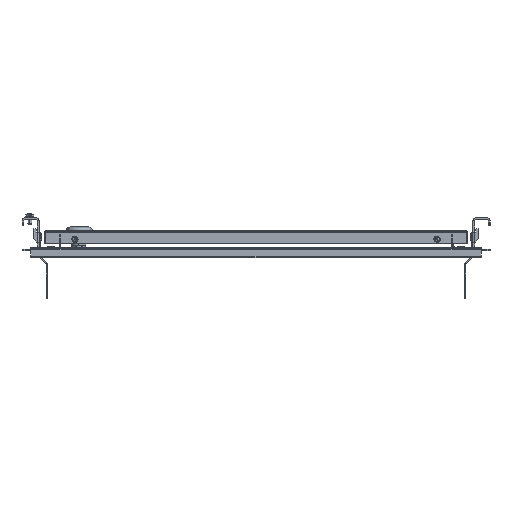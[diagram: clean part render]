
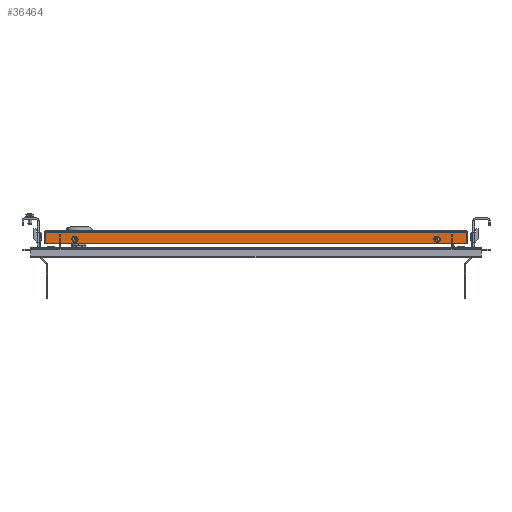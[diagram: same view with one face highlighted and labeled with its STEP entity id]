
A CAD part, front view. The second image highlights one B-rep face of the part: STEP entity #36464.
In plain terms, the highlighted planar face has unit normal (0, -1, 0).
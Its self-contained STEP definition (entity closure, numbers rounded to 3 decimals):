
#257 = DIRECTION ( 'NONE',  ( 0., 0., -1. ) ) ;
#627 = DIRECTION ( 'NONE',  ( 0., 1., 0. ) ) ;
#799 = VERTEX_POINT ( 'NONE', #51265 ) ;
#1366 = VERTEX_POINT ( 'NONE', #47475 ) ;
#1763 = VERTEX_POINT ( 'NONE', #37355 ) ;
#2833 = CARTESIAN_POINT ( 'NONE',  ( 268.64, -574., 2.35 ) ) ;
#5793 = DIRECTION ( 'NONE',  ( 0., 0., 1. ) ) ;
#5878 = CARTESIAN_POINT ( 'NONE',  ( 0., -574., 2.35 ) ) ;
#7206 = DIRECTION ( 'NONE',  ( 0., 1., 0. ) ) ;
#7389 = CIRCLE ( 'NONE', #14703, 2.75 ) ;
#7439 = CIRCLE ( 'NONE', #29486, 2.75 ) ;
#7635 = EDGE_CURVE ( 'NONE', #30516, #47221, #7439, .T. ) ;
#8141 = VERTEX_POINT ( 'NONE', #2833 ) ;
#8250 = FACE_BOUND ( 'NONE', #25605, .T. ) ;
#8810 = ORIENTED_EDGE ( 'NONE', *, *, #13778, .T. ) ;
#9005 = ORIENTED_EDGE ( 'NONE', *, *, #48342, .F. ) ;
#12265 = CARTESIAN_POINT ( 'NONE',  ( 268.64, -574., 2.35 ) ) ;
#12819 = CIRCLE ( 'NONE', #44686, 2.75 ) ;
#13389 = DIRECTION ( 'NONE',  ( 0., 0., -1. ) ) ;
#13778 = EDGE_CURVE ( 'NONE', #57951, #25796, #27363, .T. ) ;
#14376 = CARTESIAN_POINT ( 'NONE',  ( 0., -574., 0. ) ) ;
#14703 = AXIS2_PLACEMENT_3D ( 'NONE', #24368, #627, #257 ) ;
#16467 = EDGE_CURVE ( 'NONE', #1763, #8141, #17728, .T. ) ;
#17728 = LINE ( 'NONE', #5878, #57140 ) ;
#18206 = LINE ( 'NONE', #70779, #39797 ) ;
#22097 = ORIENTED_EDGE ( 'NONE', *, *, #73186, .T. ) ;
#22555 = DIRECTION ( 'NONE',  ( 0., 0., 1. ) ) ;
#24368 = CARTESIAN_POINT ( 'NONE',  ( 231., -574., 11. ) ) ;
#25605 = EDGE_LOOP ( 'NONE', ( #45031, #75325 ) ) ;
#25796 = VERTEX_POINT ( 'NONE', #66506 ) ;
#27363 = LINE ( 'NONE', #51541, #74220 ) ;
#29262 = DIRECTION ( 'NONE',  ( 1., 0., 0. ) ) ;
#29486 = AXIS2_PLACEMENT_3D ( 'NONE', #65967, #49072, #13389 ) ;
#30516 = VERTEX_POINT ( 'NONE', #44328 ) ;
#31994 = ORIENTED_EDGE ( 'NONE', *, *, #16467, .T. ) ;
#32401 = PLANE ( 'NONE',  #47511 ) ;
#33508 = ORIENTED_EDGE ( 'NONE', *, *, #66785, .T. ) ;
#35099 = DIRECTION ( 'NONE',  ( 0., 0., 1. ) ) ;
#36335 = DIRECTION ( 'NONE',  ( 0., 0., 1. ) ) ;
#36464 = ADVANCED_FACE ( 'NONE', ( #8250, #66947, #38152 ), #32401, .T. ) ;
#37355 = CARTESIAN_POINT ( 'NONE',  ( -268.64, -574., 2.35 ) ) ;
#38152 = FACE_BOUND ( 'NONE', #66365, .T. ) ;
#39616 = CARTESIAN_POINT ( 'NONE',  ( 268.64, -574., 16.5 ) ) ;
#39797 = VECTOR ( 'NONE', #35099, 1000. ) ;
#39977 = EDGE_LOOP ( 'NONE', ( #31994, #33508, #8810, #9005 ) ) ;
#43167 = VECTOR ( 'NONE', #5793, 1000. ) ;
#44328 = CARTESIAN_POINT ( 'NONE',  ( 231., -574., 8.25 ) ) ;
#44686 = AXIS2_PLACEMENT_3D ( 'NONE', #54760, #7206, #36335 ) ;
#45002 = DIRECTION ( 'NONE',  ( -1., 0., 0. ) ) ;
#45031 = ORIENTED_EDGE ( 'NONE', *, *, #68030, .T. ) ;
#47221 = VERTEX_POINT ( 'NONE', #62373 ) ;
#47475 = CARTESIAN_POINT ( 'NONE',  ( -231., -574., 8.25 ) ) ;
#47511 = AXIS2_PLACEMENT_3D ( 'NONE', #14376, #49683, #61585 ) ;
#48342 = EDGE_CURVE ( 'NONE', #1763, #25796, #18206, .T. ) ;
#49072 = DIRECTION ( 'NONE',  ( 0., 1., 0. ) ) ;
#49683 = DIRECTION ( 'NONE',  ( 0., -1., 0. ) ) ;
#51265 = CARTESIAN_POINT ( 'NONE',  ( -231., -574., 13.75 ) ) ;
#51541 = CARTESIAN_POINT ( 'NONE',  ( 0., -574., 16.5 ) ) ;
#54760 = CARTESIAN_POINT ( 'NONE',  ( -231., -574., 11. ) ) ;
#56244 = CIRCLE ( 'NONE', #57539, 2.75 ) ;
#57140 = VECTOR ( 'NONE', #29262, 1000. ) ;
#57539 = AXIS2_PLACEMENT_3D ( 'NONE', #67820, #75114, #22555 ) ;
#57951 = VERTEX_POINT ( 'NONE', #39616 ) ;
#58351 = LINE ( 'NONE', #12265, #43167 ) ;
#59857 = EDGE_CURVE ( 'NONE', #799, #1366, #56244, .T. ) ;
#61585 = DIRECTION ( 'NONE',  ( 0., 0., -1. ) ) ;
#62373 = CARTESIAN_POINT ( 'NONE',  ( 231., -574., 13.75 ) ) ;
#63118 = ORIENTED_EDGE ( 'NONE', *, *, #7635, .T. ) ;
#65967 = CARTESIAN_POINT ( 'NONE',  ( 231., -574., 11. ) ) ;
#66365 = EDGE_LOOP ( 'NONE', ( #63118, #22097 ) ) ;
#66506 = CARTESIAN_POINT ( 'NONE',  ( -268.64, -574., 16.5 ) ) ;
#66785 = EDGE_CURVE ( 'NONE', #8141, #57951, #58351, .T. ) ;
#66947 = FACE_OUTER_BOUND ( 'NONE', #39977, .T. ) ;
#67820 = CARTESIAN_POINT ( 'NONE',  ( -231., -574., 11. ) ) ;
#68030 = EDGE_CURVE ( 'NONE', #1366, #799, #12819, .T. ) ;
#70779 = CARTESIAN_POINT ( 'NONE',  ( -268.64, -574., 2.35 ) ) ;
#73186 = EDGE_CURVE ( 'NONE', #47221, #30516, #7389, .T. ) ;
#74220 = VECTOR ( 'NONE', #45002, 1000. ) ;
#75114 = DIRECTION ( 'NONE',  ( 0., 1., 0. ) ) ;
#75325 = ORIENTED_EDGE ( 'NONE', *, *, #59857, .T. ) ;
